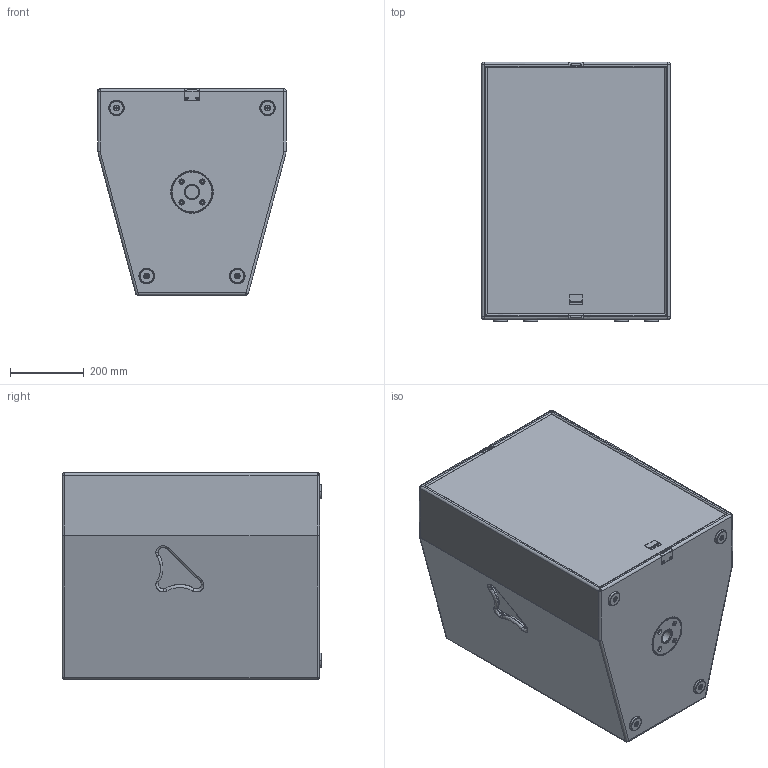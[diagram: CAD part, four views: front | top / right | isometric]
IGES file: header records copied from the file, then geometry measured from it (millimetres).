
Start section: SolidWorks IGES file using analytic representation for surfaces
Global section: file name: C:\Dokumente und Einstellungen\PC_Fabian\Desktop\K-Serie\Seeburg_K5.IGS; native system: SolidWorks 2009; preprocessor: SolidWorks 2009; author: PC_Fabian; date: 121016.135905; units: millimetre
Bounding box: 512 x 704 x 560 mm (x, y, z)
Surface area: 3946186 mm2 (no closed solid volume)
Topology: 0 solids, 0 shells, 698 faces, 9096 edges, 9091 vertices
Faces by surface type: bspline 360, revolution 338
